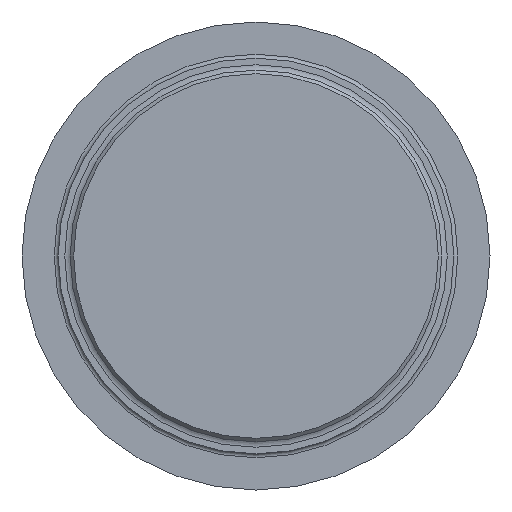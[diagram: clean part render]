
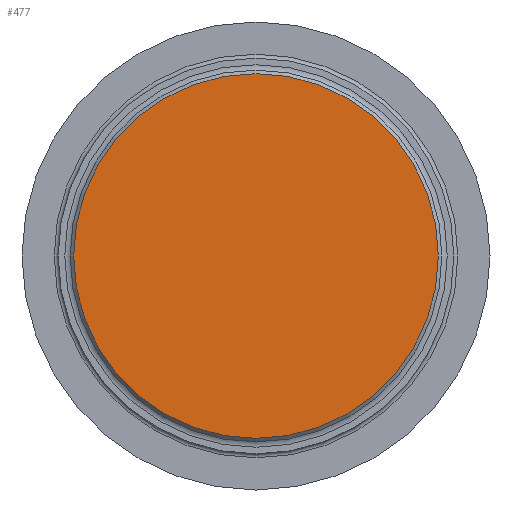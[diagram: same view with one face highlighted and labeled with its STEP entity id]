
A CAD part, front view. The second image highlights one B-rep face of the part: STEP entity #477.
In plain terms, the highlighted planar face has unit normal (0, -1, 0).
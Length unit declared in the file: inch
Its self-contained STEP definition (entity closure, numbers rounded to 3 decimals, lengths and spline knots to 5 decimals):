
#23=PLANE('',#583);
#86=FACE_OUTER_BOUND('',#114,.T.);
#114=EDGE_LOOP('',(#427,#428));
#144=CIRCLE('',#527,1.3945);
#145=CIRCLE('',#528,1.3945);
#200=VERTEX_POINT('',#817);
#201=VERTEX_POINT('',#819);
#257=EDGE_CURVE('',#201,#200,#144,.T.);
#258=EDGE_CURVE('',#200,#201,#145,.T.);
#427=ORIENTED_EDGE('',*,*,#257,.T.);
#428=ORIENTED_EDGE('',*,*,#258,.T.);
#477=ADVANCED_FACE('',(#86),#23,.F.);
#527=AXIS2_PLACEMENT_3D('',#820,#641,#642);
#528=AXIS2_PLACEMENT_3D('',#821,#643,#644);
#583=AXIS2_PLACEMENT_3D('',#920,#763,#764);
#641=DIRECTION('center_axis',(0.,-1.,0.));
#642=DIRECTION('ref_axis',(0.,0.,1.));
#643=DIRECTION('center_axis',(0.,-1.,0.));
#644=DIRECTION('ref_axis',(0.,0.,1.));
#763=DIRECTION('center_axis',(0.,1.,0.));
#764=DIRECTION('ref_axis',(0.,0.,1.));
#817=CARTESIAN_POINT('',(0.,-0.63,-1.3945));
#819=CARTESIAN_POINT('',(0.,-0.63,1.3945));
#820=CARTESIAN_POINT('Origin',(0.,-0.63,0.));
#821=CARTESIAN_POINT('Origin',(0.,-0.63,0.));
#920=CARTESIAN_POINT('Origin',(1.513,-0.63,0.));
